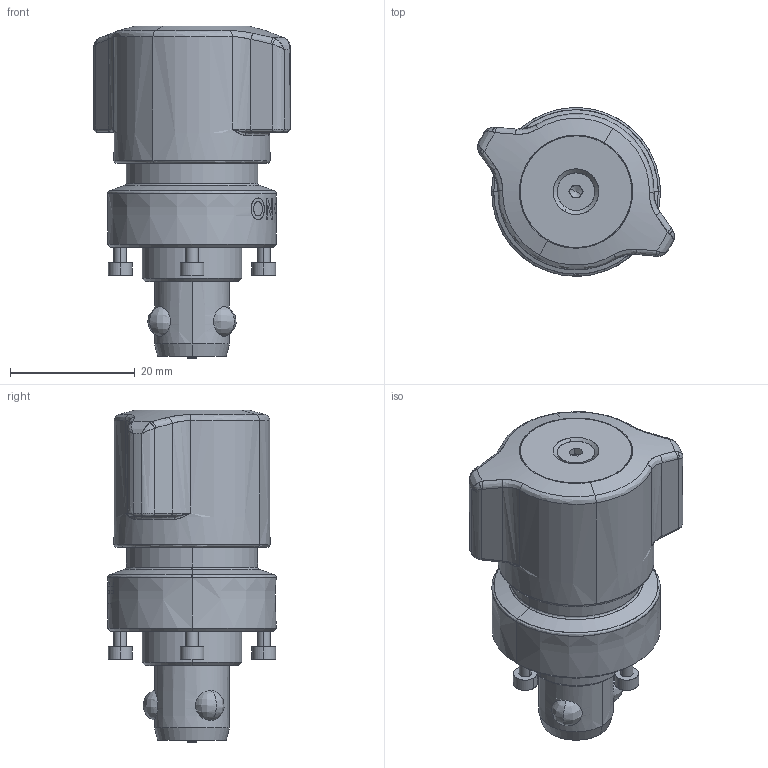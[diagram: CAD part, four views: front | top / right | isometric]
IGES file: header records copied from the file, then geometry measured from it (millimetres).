
Start section: SolidWorks IGES file using analytic representation for surfaces
Bounding box: 31.5 x 27 x 53.17 mm (x, y, z)
Surface area: 12359.3 mm2 (no closed solid volume)
Topology: 0 solids, 0 shells, 286 faces, 3442 edges, 3438 vertices
Faces by surface type: bspline 186, revolution 100
